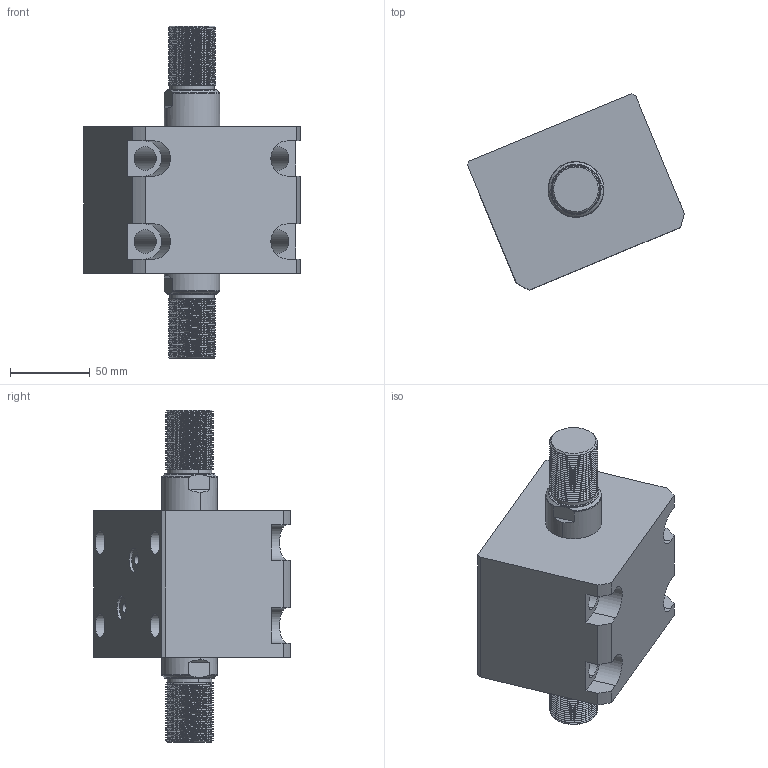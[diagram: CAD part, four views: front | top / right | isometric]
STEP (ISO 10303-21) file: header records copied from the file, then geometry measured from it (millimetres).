
FILE_DESCRIPTION (( 'STEP AP214' ), '1' );
FILE_NAME ('chtb-lwm63x10w_asm.STEP', '2018-05-22T01:25:21', ( 'Windows' ), ( 'Microsoft' ), 'SwSTEP 2.0', 'SolidWorks 2015', '' );
FILE_SCHEMA (( 'AUTOMOTIVE_DESIGN' ));
Length unit declared in the file: millimetre
Products named in the file (4): CHTB-SW63X10WHSG; CHTB-LWM63X10NBT; CHTB-63QG; chtb-lwm63x10w_asm
Assembly tree (3 placements, depth 2):
  chtb-lwm63x10w_asm
    CHTB-63QG
    CHTB-LWM63X10NBT
    CHTB-SW63X10WHSG
Bounding box: 135.77 x 123.03 x 208 mm (x, y, z)
Volume: 916985.9 mm3; surface area: 141508.7 mm2
Topology: 3 solids, 3 shells, 285 faces, 836 edges, 565 vertices
Faces by surface type: cylinder 198, plane 47, bspline 16, cone 12, torus 12
Entity records: 27223 total; most frequent: CARTESIAN_POINT 20437, ORIENTED_EDGE 1664, DIRECTION 1115, EDGE_CURVE 832, VERTEX_POINT 565, AXIS2_PLACEMENT_3D 416, EDGE_LOOP 313, FACE_OUTER_BOUND 285
